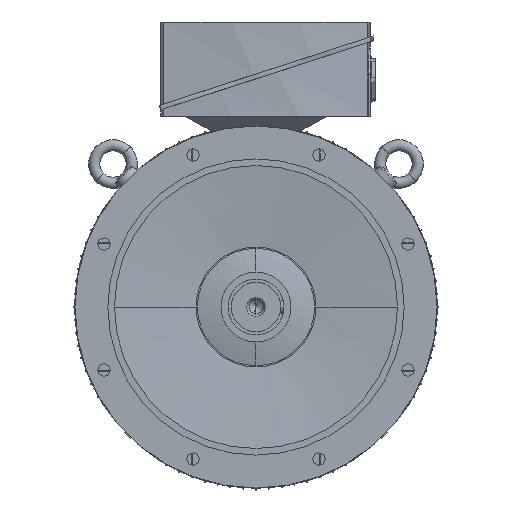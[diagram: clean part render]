
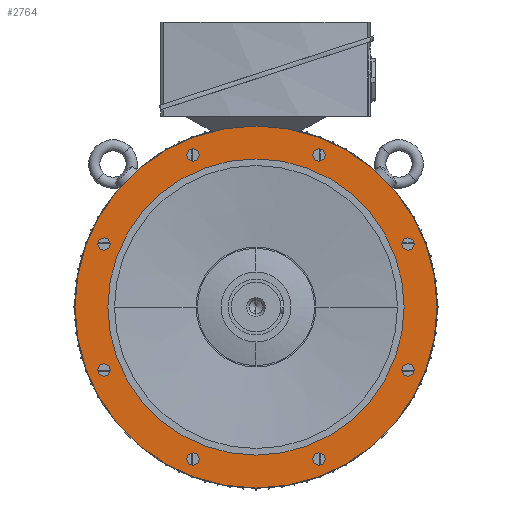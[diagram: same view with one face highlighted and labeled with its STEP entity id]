
A CAD part, left-side view. The second image highlights one B-rep face of the part: STEP entity #2764.
In plain terms, the highlighted planar face has unit normal (-1, 0, 0).
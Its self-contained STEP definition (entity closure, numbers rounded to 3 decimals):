
#2764=ADVANCED_FACE('',(#6070,#6071,#6072,#6073,#6074,#6075,#6076,#6077,#6078,#6079),#6080,.T.);
#6070=FACE_BOUND('',#9906,.T.);
#6071=FACE_BOUND('',#9907,.T.);
#6072=FACE_BOUND('',#9908,.T.);
#6073=FACE_BOUND('',#9909,.T.);
#6074=FACE_BOUND('',#9910,.T.);
#6075=FACE_BOUND('',#9911,.T.);
#6076=FACE_BOUND('',#9912,.T.);
#6077=FACE_BOUND('',#9913,.T.);
#6078=FACE_OUTER_BOUND('',#9914,.T.);
#6079=FACE_BOUND('',#9915,.T.);
#6080=PLANE('',#9916);
#9906=EDGE_LOOP('',(#18014,#18015));
#9907=EDGE_LOOP('',(#18016,#18017));
#9908=EDGE_LOOP('',(#18018,#18019));
#9909=EDGE_LOOP('',(#18020,#18021));
#9910=EDGE_LOOP('',(#18022,#18023));
#9911=EDGE_LOOP('',(#18024,#18025));
#9912=EDGE_LOOP('',(#18026,#18027));
#9913=EDGE_LOOP('',(#18028,#18029));
#9914=EDGE_LOOP('',(#18030,#18031));
#9915=EDGE_LOOP('',(#18032,#18033));
#9916=AXIS2_PLACEMENT_3D('',#18034,#18035,#18036);
#18014=ORIENTED_EDGE('',*,*,#26224,.T.);
#18015=ORIENTED_EDGE('',*,*,#23407,.T.);
#18016=ORIENTED_EDGE('',*,*,#26225,.T.);
#18017=ORIENTED_EDGE('',*,*,#23412,.T.);
#18018=ORIENTED_EDGE('',*,*,#26226,.T.);
#18019=ORIENTED_EDGE('',*,*,#23417,.T.);
#18020=ORIENTED_EDGE('',*,*,#26227,.T.);
#18021=ORIENTED_EDGE('',*,*,#23422,.T.);
#18022=ORIENTED_EDGE('',*,*,#26228,.T.);
#18023=ORIENTED_EDGE('',*,*,#23427,.T.);
#18024=ORIENTED_EDGE('',*,*,#26229,.T.);
#18025=ORIENTED_EDGE('',*,*,#23432,.T.);
#18026=ORIENTED_EDGE('',*,*,#26230,.T.);
#18027=ORIENTED_EDGE('',*,*,#23437,.T.);
#18028=ORIENTED_EDGE('',*,*,#26231,.T.);
#18029=ORIENTED_EDGE('',*,*,#23442,.T.);
#18030=ORIENTED_EDGE('',*,*,#23447,.F.);
#18031=ORIENTED_EDGE('',*,*,#26232,.F.);
#18032=ORIENTED_EDGE('',*,*,#23521,.T.);
#18033=ORIENTED_EDGE('',*,*,#24989,.T.);
#18034=CARTESIAN_POINT('',(-100.0,250.0,0.0));
#18035=DIRECTION('',(-1.0,0.0,0.0));
#18036=DIRECTION('',(0.0,-1.0,0.0));
#23407=EDGE_CURVE('',#28178,#28175,#28179,.T.);
#23412=EDGE_CURVE('',#28187,#28184,#28188,.T.);
#23417=EDGE_CURVE('',#28196,#28193,#28197,.T.);
#23422=EDGE_CURVE('',#28205,#28202,#28206,.T.);
#23427=EDGE_CURVE('',#28214,#28211,#28215,.T.);
#23432=EDGE_CURVE('',#28223,#28220,#28224,.T.);
#23437=EDGE_CURVE('',#28232,#28229,#28233,.T.);
#23442=EDGE_CURVE('',#28241,#28238,#28242,.T.);
#23447=EDGE_CURVE('',#28247,#28250,#28251,.T.);
#23521=EDGE_CURVE('',#28377,#28381,#28383,.T.);
#24989=EDGE_CURVE('',#28381,#28377,#30570,.T.);
#26224=EDGE_CURVE('',#28175,#28178,#32505,.T.);
#26225=EDGE_CURVE('',#28184,#28187,#32506,.T.);
#26226=EDGE_CURVE('',#28193,#28196,#32507,.T.);
#26227=EDGE_CURVE('',#28202,#28205,#32508,.T.);
#26228=EDGE_CURVE('',#28211,#28214,#32509,.T.);
#26229=EDGE_CURVE('',#28220,#28223,#32510,.T.);
#26230=EDGE_CURVE('',#28229,#28232,#32511,.T.);
#26231=EDGE_CURVE('',#28238,#28241,#32512,.T.);
#26232=EDGE_CURVE('',#28250,#28247,#32513,.T.);
#28175=VERTEX_POINT('',#35517);
#28178=VERTEX_POINT('',#35521);
#28179=CIRCLE('',#35522,9.25);
#28184=VERTEX_POINT('',#35528);
#28187=VERTEX_POINT('',#35532);
#28188=CIRCLE('',#35533,9.25);
#28193=VERTEX_POINT('',#35539);
#28196=VERTEX_POINT('',#35543);
#28197=CIRCLE('',#35544,9.25);
#28202=VERTEX_POINT('',#35550);
#28205=VERTEX_POINT('',#35554);
#28206=CIRCLE('',#35555,9.25);
#28211=VERTEX_POINT('',#35561);
#28214=VERTEX_POINT('',#35565);
#28215=CIRCLE('',#35566,9.25);
#28220=VERTEX_POINT('',#35572);
#28223=VERTEX_POINT('',#35576);
#28224=CIRCLE('',#35577,9.25);
#28229=VERTEX_POINT('',#35583);
#28232=VERTEX_POINT('',#35587);
#28233=CIRCLE('',#35588,9.25);
#28238=VERTEX_POINT('',#35594);
#28241=VERTEX_POINT('',#35598);
#28242=CIRCLE('',#35599,9.25);
#28247=VERTEX_POINT('',#35605);
#28250=VERTEX_POINT('',#35609);
#28251=CIRCLE('',#35610,275.0);
#28377=VERTEX_POINT('',#36222);
#28381=VERTEX_POINT('',#36227);
#28383=CIRCLE('',#36230,225.0);
#30570=CIRCLE('',#40235,225.0);
#32505=CIRCLE('',#48937,9.25);
#32506=CIRCLE('',#48938,9.25);
#32507=CIRCLE('',#48939,9.25);
#32508=CIRCLE('',#48940,9.25);
#32509=CIRCLE('',#48941,9.25);
#32510=CIRCLE('',#48942,9.25);
#32511=CIRCLE('',#48943,9.25);
#32512=CIRCLE('',#48944,9.25);
#32513=CIRCLE('',#48945,275.0);
#35517=CARTESIAN_POINT('',(-100.0,-239.516,99.211));
#35521=CARTESIAN_POINT('',(-100.0,-222.424,92.131));
#35522=AXIS2_PLACEMENT_3D('',#58077,#58078,#58079);
#35528=CARTESIAN_POINT('',(-100.0,-239.516,-99.211));
#35532=CARTESIAN_POINT('',(-100.0,-222.424,-92.131));
#35533=AXIS2_PLACEMENT_3D('',#58085,#58086,#58087);
#35539=CARTESIAN_POINT('',(-100.0,-99.211,-239.516));
#35543=CARTESIAN_POINT('',(-100.0,-92.131,-222.424));
#35544=AXIS2_PLACEMENT_3D('',#58093,#58094,#58095);
#35550=CARTESIAN_POINT('',(-100.0,99.211,-239.516));
#35554=CARTESIAN_POINT('',(-100.0,92.131,-222.424));
#35555=AXIS2_PLACEMENT_3D('',#58101,#58102,#58103);
#35561=CARTESIAN_POINT('',(-100.0,239.516,-99.211));
#35565=CARTESIAN_POINT('',(-100.0,222.424,-92.131));
#35566=AXIS2_PLACEMENT_3D('',#58109,#58110,#58111);
#35572=CARTESIAN_POINT('',(-100.0,239.516,99.211));
#35576=CARTESIAN_POINT('',(-100.0,222.424,92.131));
#35577=AXIS2_PLACEMENT_3D('',#58117,#58118,#58119);
#35583=CARTESIAN_POINT('',(-100.0,99.211,239.516));
#35587=CARTESIAN_POINT('',(-100.0,92.131,222.424));
#35588=AXIS2_PLACEMENT_3D('',#58125,#58126,#58127);
#35594=CARTESIAN_POINT('',(-100.0,-99.211,239.516));
#35598=CARTESIAN_POINT('',(-100.0,-92.131,222.424));
#35599=AXIS2_PLACEMENT_3D('',#58133,#58134,#58135);
#35605=CARTESIAN_POINT('',(-100.0,275.0,0.0));
#35609=CARTESIAN_POINT('',(-100.0,-275.0,0.));
#35610=AXIS2_PLACEMENT_3D('',#58141,#58142,#58143);
#36222=CARTESIAN_POINT('',(-100.0,225.0,0.0));
#36227=CARTESIAN_POINT('',(-100.0,-225.0,0.));
#36230=AXIS2_PLACEMENT_3D('',#58227,#58228,#58229);
#40235=AXIS2_PLACEMENT_3D('',#59781,#59782,#59783);
#48937=AXIS2_PLACEMENT_3D('',#60606,#60607,#60608);
#48938=AXIS2_PLACEMENT_3D('',#60609,#60610,#60611);
#48939=AXIS2_PLACEMENT_3D('',#60612,#60613,#60614);
#48940=AXIS2_PLACEMENT_3D('',#60615,#60616,#60617);
#48941=AXIS2_PLACEMENT_3D('',#60618,#60619,#60620);
#48942=AXIS2_PLACEMENT_3D('',#60621,#60622,#60623);
#48943=AXIS2_PLACEMENT_3D('',#60624,#60625,#60626);
#48944=AXIS2_PLACEMENT_3D('',#60627,#60628,#60629);
#48945=AXIS2_PLACEMENT_3D('',#60630,#60631,#60632);
#58077=CARTESIAN_POINT('',(-100.0,-230.97,95.671));
#58078=DIRECTION('',(1.0,0.0,-0.0));
#58079=DIRECTION('',(0.0,-0.924,0.383));
#58085=CARTESIAN_POINT('',(-100.0,-230.97,-95.671));
#58086=DIRECTION('',(1.0,0.0,0.0));
#58087=DIRECTION('',(0.0,-0.924,-0.383));
#58093=CARTESIAN_POINT('',(-100.0,-95.671,-230.97));
#58094=DIRECTION('',(1.0,0.0,0.0));
#58095=DIRECTION('',(0.0,-0.383,-0.924));
#58101=CARTESIAN_POINT('',(-100.0,95.671,-230.97));
#58102=DIRECTION('',(1.0,-0.0,0.0));
#58103=DIRECTION('',(0.0,0.383,-0.924));
#58109=CARTESIAN_POINT('',(-100.0,230.97,-95.671));
#58110=DIRECTION('',(1.0,-0.0,0.0));
#58111=DIRECTION('',(0.0,0.924,-0.383));
#58117=CARTESIAN_POINT('',(-100.0,230.97,95.671));
#58118=DIRECTION('',(1.0,0.0,-0.0));
#58119=DIRECTION('',(0.0,0.924,0.383));
#58125=CARTESIAN_POINT('',(-100.0,95.671,230.97));
#58126=DIRECTION('',(1.0,0.0,-0.0));
#58127=DIRECTION('',(0.0,0.383,0.924));
#58133=CARTESIAN_POINT('',(-100.0,-95.671,230.97));
#58134=DIRECTION('',(1.0,0.0,-0.0));
#58135=DIRECTION('',(0.0,-0.383,0.924));
#58141=CARTESIAN_POINT('',(-100.0,0.0,0.0));
#58142=DIRECTION('',(1.0,0.0,0.0));
#58143=DIRECTION('',(0.0,1.0,0.0));
#58227=CARTESIAN_POINT('',(-100.0,0.0,0.0));
#58228=DIRECTION('',(1.0,0.0,0.0));
#58229=DIRECTION('',(0.0,1.0,0.0));
#59781=CARTESIAN_POINT('',(-100.0,0.0,0.0));
#59782=DIRECTION('',(1.0,0.0,0.0));
#59783=DIRECTION('',(0.0,1.0,0.0));
#60606=CARTESIAN_POINT('',(-100.0,-230.97,95.671));
#60607=DIRECTION('',(1.0,0.0,-0.0));
#60608=DIRECTION('',(0.0,-0.924,0.383));
#60609=CARTESIAN_POINT('',(-100.0,-230.97,-95.671));
#60610=DIRECTION('',(1.0,0.0,0.0));
#60611=DIRECTION('',(0.0,-0.924,-0.383));
#60612=CARTESIAN_POINT('',(-100.0,-95.671,-230.97));
#60613=DIRECTION('',(1.0,0.0,0.0));
#60614=DIRECTION('',(0.0,-0.383,-0.924));
#60615=CARTESIAN_POINT('',(-100.0,95.671,-230.97));
#60616=DIRECTION('',(1.0,-0.0,0.0));
#60617=DIRECTION('',(0.0,0.383,-0.924));
#60618=CARTESIAN_POINT('',(-100.0,230.97,-95.671));
#60619=DIRECTION('',(1.0,-0.0,0.0));
#60620=DIRECTION('',(0.0,0.924,-0.383));
#60621=CARTESIAN_POINT('',(-100.0,230.97,95.671));
#60622=DIRECTION('',(1.0,0.0,-0.0));
#60623=DIRECTION('',(0.0,0.924,0.383));
#60624=CARTESIAN_POINT('',(-100.0,95.671,230.97));
#60625=DIRECTION('',(1.0,0.0,-0.0));
#60626=DIRECTION('',(0.0,0.383,0.924));
#60627=CARTESIAN_POINT('',(-100.0,-95.671,230.97));
#60628=DIRECTION('',(1.0,0.0,-0.0));
#60629=DIRECTION('',(0.0,-0.383,0.924));
#60630=CARTESIAN_POINT('',(-100.0,0.0,0.0));
#60631=DIRECTION('',(1.0,0.0,0.0));
#60632=DIRECTION('',(0.0,1.0,0.0));
